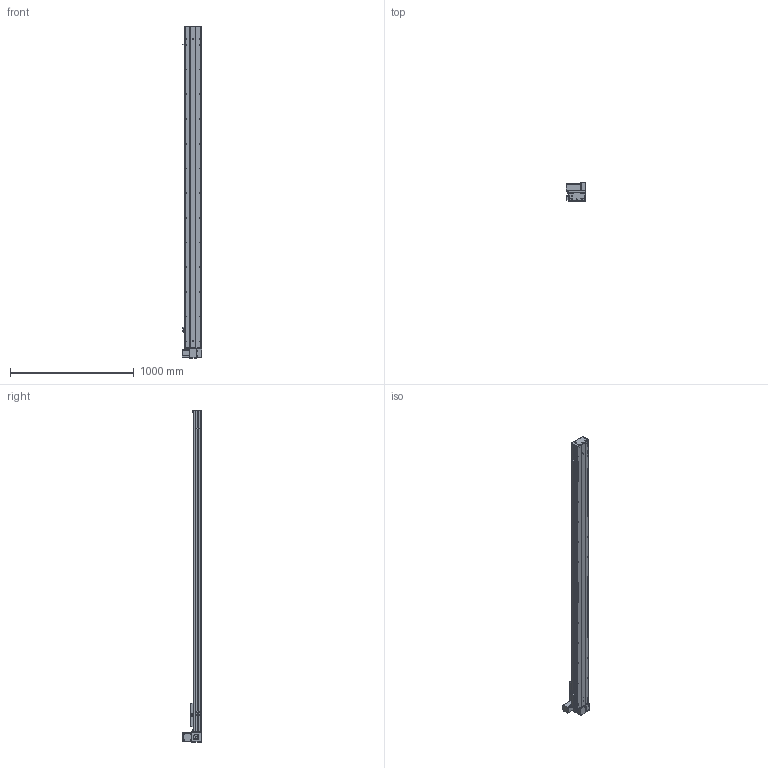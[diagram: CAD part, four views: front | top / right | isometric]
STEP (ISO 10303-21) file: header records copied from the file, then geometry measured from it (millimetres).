
FILE_DESCRIPTION (( 'STEP AP203' ), '1' );
FILE_NAME ('Y135CB-D90-S2300-UL-P400W.STEP', '2020-02-18T08:00:01', ( '微软用户' ), ( '微软中国' ), 'SwSTEP 2.0', 'SolidWorks 2017', '' );
FILE_SCHEMA (( 'CONFIG_CONTROL_DESIGN' ));
Length unit declared in the file: millimetre
Products named in the file (18): C-雄赽釱--; 0B-萇儂楊擘啣; Y10B-耜蚾蟀諉啣----; san松下电机400不带刹车----; 00B-俋欶BM--; 5CB --掛极耜裔啣-; Y10B--々湍喘謫眊--666; C-詩湍揤踡え-陔; Y135CB-耜裔; Y135CB-D90-S2300-UL-P400W; 135CB--詩湍-CE; 135CB---遴掛极.-; Y100-135俋离換覜ん--; 35CB---喘謫眊楊擘啣; Y135C-陔俋离換覜結え-; 0B-埴倛裔啣; 5C--俋欶; 0B-源倛裔啣
Assembly tree (21 placements, depth 2):
  Y135CB-D90-S2300-UL-P400W
    Y135CB-耜裔
    135CB---遴掛极.-
    35CB---喘謫眊楊擘啣
    0B-埴倛裔啣
    0B-源倛裔啣
    0B-萇儂楊擘啣
    san松下电机400不带刹车----
    5CB --掛极耜裔啣-  x2
    C-詩湍揤踡え-陔  x2
    135CB--詩湍-CE
    Y100-135俋离換覜ん--  x3
    Y135C-陔俋离換覜結え-
    5C--俋欶
    C-雄赽釱--
    Y10B-耜蚾蟀諉啣----
    00B-俋欶BM--
    Y10B--々湍喘謫眊--666
Bounding box: 157 x 158.7 x 2688 mm (x, y, z)
Volume: 7761553.4 mm3; surface area: 3063830.7 mm2
Topology: 21 solids, 21 shells, 973 faces, 2653 edges, 1758 vertices
Faces by surface type: cylinder 501, plane 456, cone 16
Entity records: 30763 total; most frequent: CARTESIAN_POINT 5120, DIRECTION 5113, ORIENTED_EDGE 4782, EDGE_CURVE 2391, AXIS2_PLACEMENT_3D 1875, VERTEX_POINT 1586, VECTOR 1363, LINE 1363
